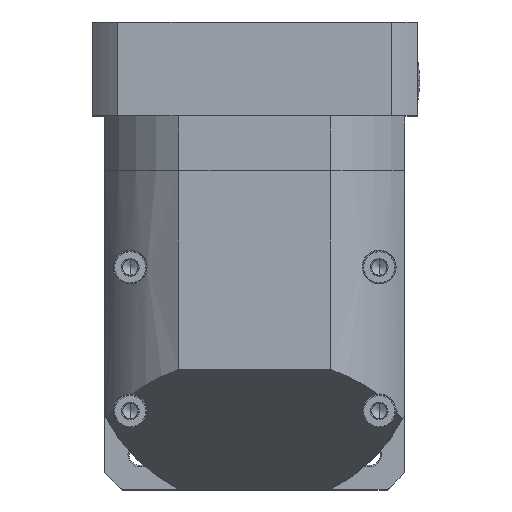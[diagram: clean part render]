
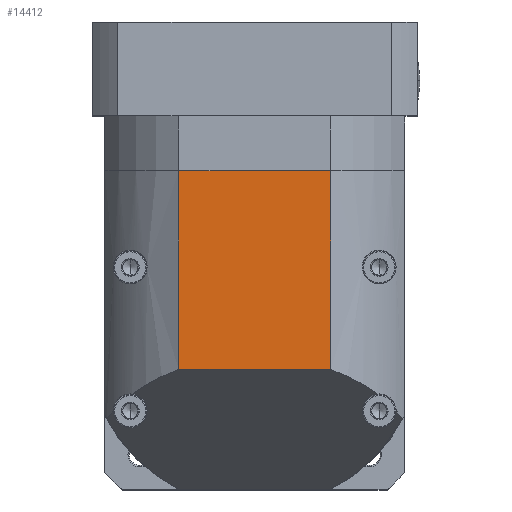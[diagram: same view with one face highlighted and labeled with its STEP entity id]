
A CAD part, top view. The second image highlights one B-rep face of the part: STEP entity #14412.
In plain terms, the highlighted planar face has unit normal (0, 0, 1).
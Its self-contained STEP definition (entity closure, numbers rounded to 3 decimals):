
#193 = VERTEX_POINT ( 'NONE', #15182 ) ;
#599 = DIRECTION ( 'NONE',  ( -1., 0., 0. ) ) ;
#1064 = CARTESIAN_POINT ( 'NONE',  ( 18.71, -2.224, 254.361 ) ) ;
#1136 = VECTOR ( 'NONE', #599, 1000. ) ;
#2109 = LINE ( 'NONE', #16718, #7582 ) ;
#2751 = PLANE ( 'NONE',  #4205 ) ;
#4205 = AXIS2_PLACEMENT_3D ( 'NONE', #1064, #16017, #4906 ) ;
#4517 = VECTOR ( 'NONE', #18108, 1000. ) ;
#4906 = DIRECTION ( 'NONE',  ( 0., 1., 0. ) ) ;
#5145 = CARTESIAN_POINT ( 'NONE',  ( 18.71, -81.724, 254.361 ) ) ;
#5156 = EDGE_CURVE ( 'NONE', #193, #20166, #19802, .T. ) ;
#5445 = EDGE_LOOP ( 'NONE', ( #21471, #18061, #8747, #12426 ) ) ;
#5446 = DIRECTION ( 'NONE',  ( 0., -1., 0. ) ) ;
#6672 = FACE_OUTER_BOUND ( 'NONE', #5445, .T. ) ;
#7223 = LINE ( 'NONE', #14547, #23272 ) ;
#7582 = VECTOR ( 'NONE', #18996, 1000. ) ;
#8747 = ORIENTED_EDGE ( 'NONE', *, *, #5156, .F. ) ;
#9677 = CARTESIAN_POINT ( 'NONE',  ( 48.337, -81.724, 254.361 ) ) ;
#10439 = CARTESIAN_POINT ( 'NONE',  ( 18.71, -2.224, 254.361 ) ) ;
#10901 = VERTEX_POINT ( 'NONE', #14930 ) ;
#11368 = LINE ( 'NONE', #9677, #1136 ) ;
#12426 = ORIENTED_EDGE ( 'NONE', *, *, #19272, .F. ) ;
#13257 = EDGE_CURVE ( 'NONE', #10901, #15665, #7223, .T. ) ;
#14400 = EDGE_CURVE ( 'NONE', #20166, #15665, #11368, .T. ) ;
#14412 = ADVANCED_FACE ( 'NONE', ( #6672 ), #2751, .F. ) ;
#14547 = CARTESIAN_POINT ( 'NONE',  ( -42.037, -2.224, 254.361 ) ) ;
#14930 = CARTESIAN_POINT ( 'NONE',  ( -42.037, -2.224, 254.361 ) ) ;
#15182 = CARTESIAN_POINT ( 'NONE',  ( 18.71, -2.224, 254.361 ) ) ;
#15665 = VERTEX_POINT ( 'NONE', #20613 ) ;
#16017 = DIRECTION ( 'NONE',  ( 0., 0., -1. ) ) ;
#16718 = CARTESIAN_POINT ( 'NONE',  ( 18.71, -2.224, 254.361 ) ) ;
#18061 = ORIENTED_EDGE ( 'NONE', *, *, #14400, .F. ) ;
#18108 = DIRECTION ( 'NONE',  ( 0., -1., 0. ) ) ;
#18996 = DIRECTION ( 'NONE',  ( 1., 0., 0. ) ) ;
#19272 = EDGE_CURVE ( 'NONE', #10901, #193, #2109, .T. ) ;
#19802 = LINE ( 'NONE', #10439, #4517 ) ;
#20166 = VERTEX_POINT ( 'NONE', #5145 ) ;
#20613 = CARTESIAN_POINT ( 'NONE',  ( -42.037, -81.724, 254.361 ) ) ;
#21471 = ORIENTED_EDGE ( 'NONE', *, *, #13257, .T. ) ;
#23272 = VECTOR ( 'NONE', #5446, 1000. ) ;
